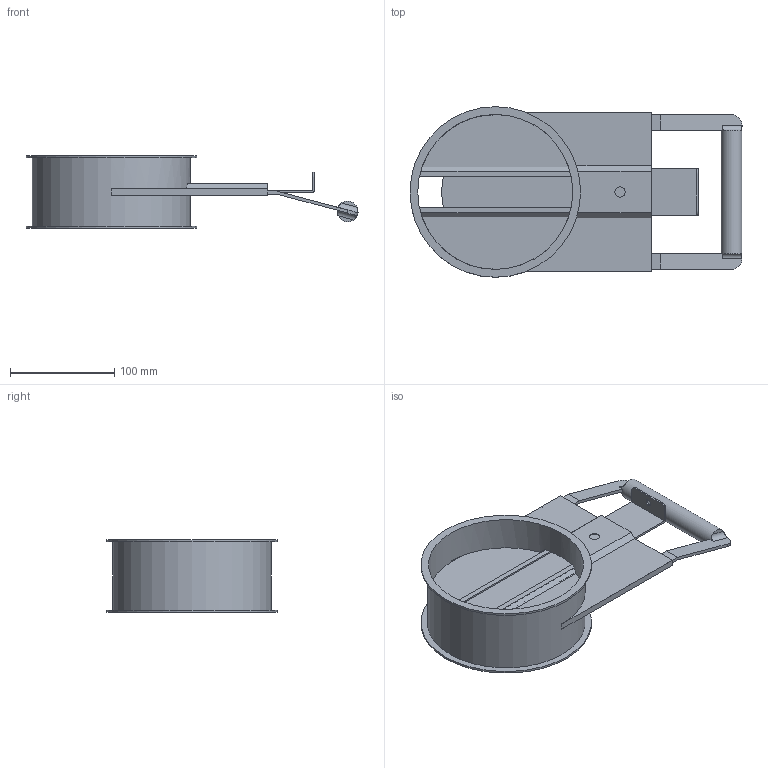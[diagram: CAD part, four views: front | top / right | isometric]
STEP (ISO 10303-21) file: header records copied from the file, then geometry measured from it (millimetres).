
FILE_DESCRIPTION((''),'2;1');
FILE_NAME('U:\Wolfgang\Marcel-3D\fertig\Kapitel 9\1521079.stp','2011-10-11T12:56:09',('iwienholt'),(''),'Autodesk Inventor 2010','Autodesk Inventor 2010','');
FILE_SCHEMA(('AUTOMOTIVE_DESIGN { 1 0 10303 214 1 1 1 1 }'));
Length unit declared in the file: millimetre
Products named in the file (4): 1521079; Dosierzunge DN150; Rohr mit Führung DN150; Schieberblech DN150
Assembly tree (3 placements, depth 2):
  1521079
    Dosierzunge DN150
    Rohr mit Führung DN150
    Schieberblech DN150
Bounding box: 319.22 x 164 x 70 mm (x, y, z)
Volume: 228914.9 mm3; surface area: 239780.1 mm2
Topology: 3 solids, 3 shells, 86 faces, 242 edges, 161 vertices
Faces by surface type: plane 59, cylinder 19, bspline 8
Full cylindrical faces by diameter (mm): 20 x1, 149 x1, 152 x1, 164 x2
Entity records: 2947 total; most frequent: CARTESIAN_POINT 634, ORIENTED_EDGE 458, DIRECTION 455, EDGE_CURVE 229, VECTOR 157, LINE 157, VERTEX_POINT 156, AXIS2_PLACEMENT_3D 149
